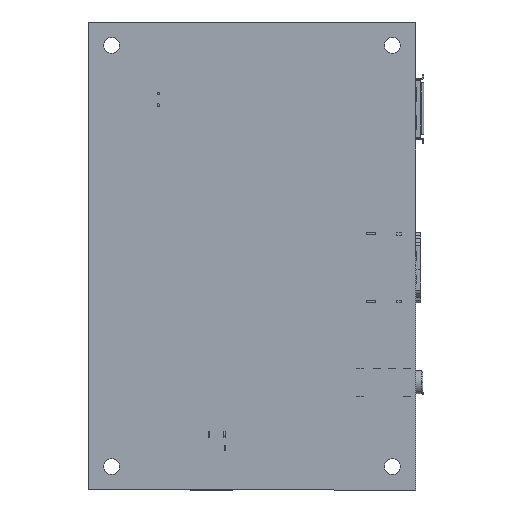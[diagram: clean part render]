
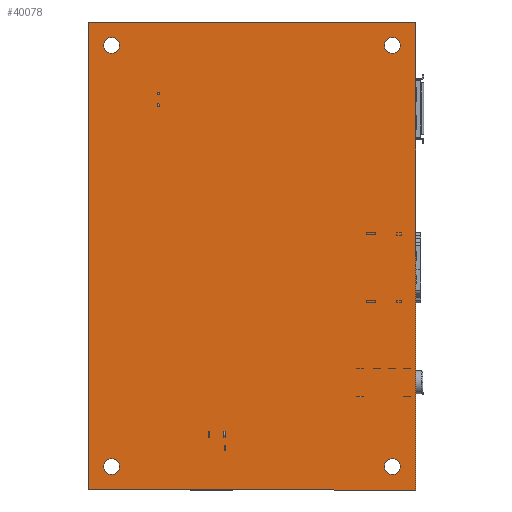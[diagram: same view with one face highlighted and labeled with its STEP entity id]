
A CAD part, front view. The second image highlights one B-rep face of the part: STEP entity #40078.
In plain terms, the highlighted planar face has unit normal (0, -1, 0).
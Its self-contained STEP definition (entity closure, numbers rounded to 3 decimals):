
#40 = DIRECTION ( 'NONE',  ( 0., 0., 1. ) ) ;
#629 = AXIS2_PLACEMENT_3D ( 'NONE', #15822, #51207, #50460 ) ;
#1164 = EDGE_CURVE ( 'NONE', #52629, #9003, #3923, .T. ) ;
#1380 = AXIS2_PLACEMENT_3D ( 'NONE', #14918, #38776, #61474 ) ;
#2122 = DIRECTION ( 'NONE',  ( 0., 0., 1. ) ) ;
#2694 = DIRECTION ( 'NONE',  ( 0., 1., 0. ) ) ;
#2969 = AXIS2_PLACEMENT_3D ( 'NONE', #28368, #73432, #40 ) ;
#3760 = CIRCLE ( 'NONE', #1380, 1.7 ) ;
#3799 = EDGE_CURVE ( 'NONE', #46670, #20923, #59347, .T. ) ;
#3923 = CIRCLE ( 'NONE', #72973, 1.7 ) ;
#6392 = EDGE_LOOP ( 'NONE', ( #55373, #65170 ) ) ;
#6981 = EDGE_CURVE ( 'NONE', #17509, #68713, #66091, .T. ) ;
#7457 = FACE_BOUND ( 'NONE', #47163, .T. ) ;
#7533 = ORIENTED_EDGE ( 'NONE', *, *, #69578, .F. ) ;
#9003 = VERTEX_POINT ( 'NONE', #60166 ) ;
#9323 = ORIENTED_EDGE ( 'NONE', *, *, #38706, .T. ) ;
#10577 = DIRECTION ( 'NONE',  ( 0., 1., 0. ) ) ;
#10971 = CARTESIAN_POINT ( 'NONE',  ( 30., -1.6, -45. ) ) ;
#12208 = CARTESIAN_POINT ( 'NONE',  ( -35., -1.6, -50. ) ) ;
#12671 = CARTESIAN_POINT ( 'NONE',  ( 30., -1.6, 45. ) ) ;
#12868 = EDGE_CURVE ( 'NONE', #53038, #68745, #30977, .T. ) ;
#14633 = EDGE_CURVE ( 'NONE', #68713, #17509, #3760, .T. ) ;
#14918 = CARTESIAN_POINT ( 'NONE',  ( -30., -1.6, 45. ) ) ;
#15822 = CARTESIAN_POINT ( 'NONE',  ( 30., -1.6, 45. ) ) ;
#16347 = LINE ( 'NONE', #56577, #56526 ) ;
#17375 = CIRCLE ( 'NONE', #67354, 1.7 ) ;
#17509 = VERTEX_POINT ( 'NONE', #69573 ) ;
#17902 = AXIS2_PLACEMENT_3D ( 'NONE', #68333, #10577, #61983 ) ;
#19016 = VERTEX_POINT ( 'NONE', #57656 ) ;
#19020 = FACE_OUTER_BOUND ( 'NONE', #43173, .T. ) ;
#19111 = CARTESIAN_POINT ( 'NONE',  ( -30., -1.6, 45. ) ) ;
#19141 = DIRECTION ( 'NONE',  ( 0., 0., -1. ) ) ;
#19389 = DIRECTION ( 'NONE',  ( 0., 0., 1. ) ) ;
#19663 = LINE ( 'NONE', #55286, #59300 ) ;
#20778 = ORIENTED_EDGE ( 'NONE', *, *, #26439, .F. ) ;
#20923 = VERTEX_POINT ( 'NONE', #52624 ) ;
#22649 = VECTOR ( 'NONE', #19141, 1000. ) ;
#23034 = CARTESIAN_POINT ( 'NONE',  ( 30., -1.6, -43.3 ) ) ;
#23538 = VERTEX_POINT ( 'NONE', #23034 ) ;
#24511 = ORIENTED_EDGE ( 'NONE', *, *, #3799, .F. ) ;
#24513 = CARTESIAN_POINT ( 'NONE',  ( -35., -1.6, 50. ) ) ;
#24704 = ORIENTED_EDGE ( 'NONE', *, *, #14633, .T. ) ;
#26074 = FACE_BOUND ( 'NONE', #32369, .T. ) ;
#26439 = EDGE_CURVE ( 'NONE', #37136, #46670, #16347, .T. ) ;
#28368 = CARTESIAN_POINT ( 'NONE',  ( 30., -1.6, -45. ) ) ;
#29880 = CARTESIAN_POINT ( 'NONE',  ( 35., -1.6, 50. ) ) ;
#30214 = CARTESIAN_POINT ( 'NONE',  ( 0., -1.6, 0. ) ) ;
#30816 = EDGE_CURVE ( 'NONE', #20923, #51359, #19663, .T. ) ;
#30977 = CIRCLE ( 'NONE', #17902, 1.7 ) ;
#31671 = FACE_BOUND ( 'NONE', #47665, .T. ) ;
#31734 = CARTESIAN_POINT ( 'NONE',  ( -30., -1.6, -43.3 ) ) ;
#32369 = EDGE_LOOP ( 'NONE', ( #44678, #44762 ) ) ;
#32598 = EDGE_CURVE ( 'NONE', #9003, #52629, #73161, .T. ) ;
#34122 = AXIS2_PLACEMENT_3D ( 'NONE', #30214, #71510, #19389 ) ;
#35795 = FACE_BOUND ( 'NONE', #6392, .T. ) ;
#37136 = VERTEX_POINT ( 'NONE', #63790 ) ;
#38706 = EDGE_CURVE ( 'NONE', #19016, #23538, #69627, .T. ) ;
#38776 = DIRECTION ( 'NONE',  ( 0., 1., 0. ) ) ;
#38791 = AXIS2_PLACEMENT_3D ( 'NONE', #19111, #2694, #47406 ) ;
#40078 = ADVANCED_FACE ( 'NONE', ( #26074, #7457, #31671, #35795, #19020 ), #65192, .F. ) ;
#41129 = ORIENTED_EDGE ( 'NONE', *, *, #30816, .F. ) ;
#41131 = ORIENTED_EDGE ( 'NONE', *, *, #6981, .T. ) ;
#41172 = VECTOR ( 'NONE', #2122, 1000. ) ;
#42375 = ORIENTED_EDGE ( 'NONE', *, *, #46098, .T. ) ;
#43173 = EDGE_LOOP ( 'NONE', ( #7533, #41129, #24511, #20778 ) ) ;
#44678 = ORIENTED_EDGE ( 'NONE', *, *, #47946, .T. ) ;
#44721 = DIRECTION ( 'NONE',  ( 0., 1., 0. ) ) ;
#44762 = ORIENTED_EDGE ( 'NONE', *, *, #12868, .T. ) ;
#46098 = EDGE_CURVE ( 'NONE', #23538, #19016, #17375, .T. ) ;
#46670 = VERTEX_POINT ( 'NONE', #29880 ) ;
#47163 = EDGE_LOOP ( 'NONE', ( #42375, #9323 ) ) ;
#47406 = DIRECTION ( 'NONE',  ( 0., 0., 1. ) ) ;
#47665 = EDGE_LOOP ( 'NONE', ( #41131, #24704 ) ) ;
#47946 = EDGE_CURVE ( 'NONE', #68745, #53038, #67559, .T. ) ;
#48020 = DIRECTION ( 'NONE',  ( 0., 0., 1. ) ) ;
#50460 = DIRECTION ( 'NONE',  ( 0., 0., 1. ) ) ;
#50846 = DIRECTION ( 'NONE',  ( 0., 0., 1. ) ) ;
#51207 = DIRECTION ( 'NONE',  ( 0., 1., 0. ) ) ;
#51359 = VERTEX_POINT ( 'NONE', #12208 ) ;
#52164 = DIRECTION ( 'NONE',  ( 0., 1., 0. ) ) ;
#52624 = CARTESIAN_POINT ( 'NONE',  ( 35., -1.6, -50. ) ) ;
#52629 = VERTEX_POINT ( 'NONE', #64261 ) ;
#53038 = VERTEX_POINT ( 'NONE', #64542 ) ;
#53296 = AXIS2_PLACEMENT_3D ( 'NONE', #66714, #44721, #73041 ) ;
#55286 = CARTESIAN_POINT ( 'NONE',  ( 35., -1.6, -50. ) ) ;
#55373 = ORIENTED_EDGE ( 'NONE', *, *, #1164, .T. ) ;
#56526 = VECTOR ( 'NONE', #61803, 1000. ) ;
#56577 = CARTESIAN_POINT ( 'NONE',  ( 35., -1.6, 50. ) ) ;
#57656 = CARTESIAN_POINT ( 'NONE',  ( 30., -1.6, -46.7 ) ) ;
#58746 = LINE ( 'NONE', #24513, #41172 ) ;
#59300 = VECTOR ( 'NONE', #72803, 1000. ) ;
#59347 = LINE ( 'NONE', #65313, #22649 ) ;
#60166 = CARTESIAN_POINT ( 'NONE',  ( 30., -1.6, 43.3 ) ) ;
#61474 = DIRECTION ( 'NONE',  ( 0., 0., 1. ) ) ;
#61803 = DIRECTION ( 'NONE',  ( 1., 0., 0. ) ) ;
#61983 = DIRECTION ( 'NONE',  ( 0., 0., 1. ) ) ;
#63790 = CARTESIAN_POINT ( 'NONE',  ( -35., -1.6, 50. ) ) ;
#64261 = CARTESIAN_POINT ( 'NONE',  ( 30., -1.6, 46.7 ) ) ;
#64542 = CARTESIAN_POINT ( 'NONE',  ( -30., -1.6, -46.7 ) ) ;
#65170 = ORIENTED_EDGE ( 'NONE', *, *, #32598, .T. ) ;
#65192 = PLANE ( 'NONE',  #34122 ) ;
#65313 = CARTESIAN_POINT ( 'NONE',  ( 35., -1.6, 50. ) ) ;
#66091 = CIRCLE ( 'NONE', #38791, 1.7 ) ;
#66714 = CARTESIAN_POINT ( 'NONE',  ( -30., -1.6, -45. ) ) ;
#67242 = DIRECTION ( 'NONE',  ( 0., 1., 0. ) ) ;
#67354 = AXIS2_PLACEMENT_3D ( 'NONE', #10971, #67242, #50846 ) ;
#67559 = CIRCLE ( 'NONE', #53296, 1.7 ) ;
#68333 = CARTESIAN_POINT ( 'NONE',  ( -30., -1.6, -45. ) ) ;
#68713 = VERTEX_POINT ( 'NONE', #69114 ) ;
#68745 = VERTEX_POINT ( 'NONE', #31734 ) ;
#69114 = CARTESIAN_POINT ( 'NONE',  ( -30., -1.6, 43.3 ) ) ;
#69573 = CARTESIAN_POINT ( 'NONE',  ( -30., -1.6, 46.7 ) ) ;
#69578 = EDGE_CURVE ( 'NONE', #51359, #37136, #58746, .T. ) ;
#69627 = CIRCLE ( 'NONE', #2969, 1.7 ) ;
#71510 = DIRECTION ( 'NONE',  ( 0., 1., 0. ) ) ;
#72803 = DIRECTION ( 'NONE',  ( -1., 0., 0. ) ) ;
#72973 = AXIS2_PLACEMENT_3D ( 'NONE', #12671, #52164, #48020 ) ;
#73041 = DIRECTION ( 'NONE',  ( 0., 0., 1. ) ) ;
#73161 = CIRCLE ( 'NONE', #629, 1.7 ) ;
#73432 = DIRECTION ( 'NONE',  ( 0., 1., 0. ) ) ;
